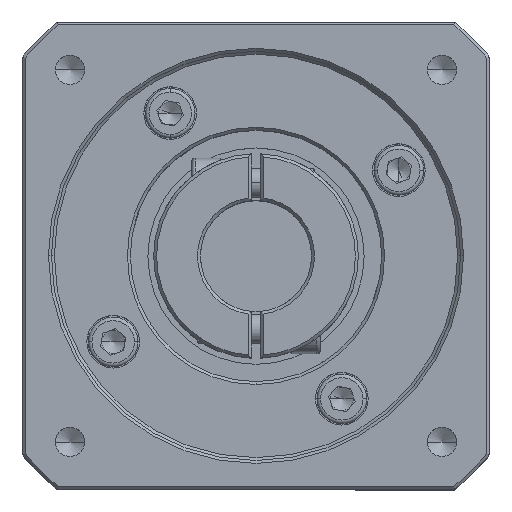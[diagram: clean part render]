
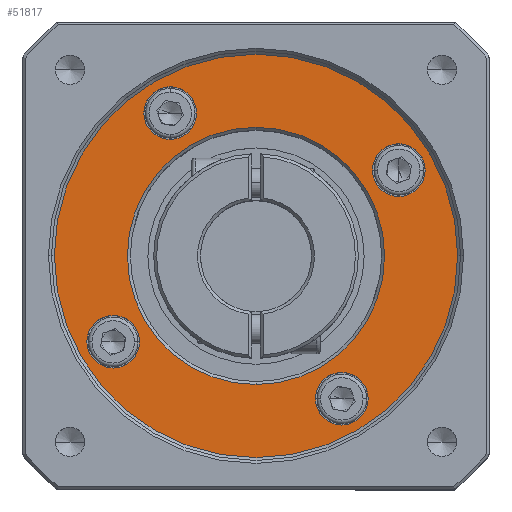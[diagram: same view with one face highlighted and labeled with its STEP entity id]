
A CAD part, top view. The second image highlights one B-rep face of the part: STEP entity #51817.
In plain terms, the highlighted planar face has unit normal (0, 0, 1).
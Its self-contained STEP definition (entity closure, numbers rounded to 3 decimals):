
#1943 = EDGE_LOOP ( 'NONE', ( #96244, #42651 ) ) ;
#2630 = DIRECTION ( 'NONE',  ( 0., 0., -1. ) ) ;
#3821 = AXIS2_PLACEMENT_3D ( 'NONE', #26159, #78778, #33727 ) ;
#4944 = DIRECTION ( 'NONE',  ( 1., 0., 0. ) ) ;
#5835 = DIRECTION ( 'NONE',  ( 0., 0., 1. ) ) ;
#6081 = CARTESIAN_POINT ( 'NONE',  ( -30.382, 27.391, 154.502 ) ) ;
#6118 = CIRCLE ( 'NONE', #39358, 4.5 ) ;
#6265 = CARTESIAN_POINT ( 'NONE',  ( -54.703, 2.961, 154.502 ) ) ;
#8869 = ORIENTED_EDGE ( 'NONE', *, *, #36456, .T. ) ;
#9958 = CARTESIAN_POINT ( 'NONE',  ( -5.525, -21.468, 154.502 ) ) ;
#10754 = EDGE_CURVE ( 'NONE', #18271, #29948, #70914, .T. ) ;
#11370 = VERTEX_POINT ( 'NONE', #59306 ) ;
#12371 = DIRECTION ( 'NONE',  ( 0., 0., 1. ) ) ;
#12946 = CARTESIAN_POINT ( 'NONE',  ( -20.203, -19.039, 154.502 ) ) ;
#14174 = VERTEX_POINT ( 'NONE', #82517 ) ;
#14445 = FACE_BOUND ( 'NONE', #47088, .T. ) ;
#14568 = AXIS2_PLACEMENT_3D ( 'NONE', #50821, #5835, #58385 ) ;
#16709 = CARTESIAN_POINT ( 'NONE',  ( -20.203, 2.961, 154.502 ) ) ;
#16757 = CARTESIAN_POINT ( 'NONE',  ( -40.133, -11.717, 154.502 ) ) ;
#17501 = DIRECTION ( 'NONE',  ( 1., 0., 0. ) ) ;
#18085 = EDGE_CURVE ( 'NONE', #30574, #94137, #35108, .T. ) ;
#18271 = VERTEX_POINT ( 'NONE', #6265 ) ;
#18584 = CARTESIAN_POINT ( 'NONE',  ( -20.203, 2.961, 154.502 ) ) ;
#19197 = DIRECTION ( 'NONE',  ( 0., 0., -1. ) ) ;
#20348 = ORIENTED_EDGE ( 'NONE', *, *, #24004, .T. ) ;
#21926 = CARTESIAN_POINT ( 'NONE',  ( -20.203, 24.961, 154.502 ) ) ;
#22164 = CARTESIAN_POINT ( 'NONE',  ( -49.133, -11.717, 154.502 ) ) ;
#22731 = ORIENTED_EDGE ( 'NONE', *, *, #67942, .T. ) ;
#23276 = EDGE_CURVE ( 'NONE', #81855, #72460, #36946, .T. ) ;
#23550 = EDGE_CURVE ( 'NONE', #94137, #30574, #65074, .T. ) ;
#24004 = EDGE_CURVE ( 'NONE', #84120, #52373, #34245, .T. ) ;
#24240 = DIRECTION ( 'NONE',  ( 0., -1., 0. ) ) ;
#25148 = EDGE_CURVE ( 'NONE', #50929, #47410, #67214, .T. ) ;
#25192 = AXIS2_PLACEMENT_3D ( 'NONE', #38974, #91455, #46536 ) ;
#25636 = DIRECTION ( 'NONE',  ( 0., 0., -1. ) ) ;
#26123 = DIRECTION ( 'NONE',  ( 1., 0., 0. ) ) ;
#26159 = CARTESIAN_POINT ( 'NONE',  ( -20.203, 2.961, 154.502 ) ) ;
#26582 = EDGE_LOOP ( 'NONE', ( #20348, #39847 ) ) ;
#26818 = CARTESIAN_POINT ( 'NONE',  ( 4.226, 17.64, 154.502 ) ) ;
#27166 = PLANE ( 'NONE',  #53374 ) ;
#27653 = AXIS2_PLACEMENT_3D ( 'NONE', #94908, #49957, #4944 ) ;
#29081 = AXIS2_PLACEMENT_3D ( 'NONE', #70691, #25636, #78225 ) ;
#29639 = EDGE_LOOP ( 'NONE', ( #72252, #83164 ) ) ;
#29948 = VERTEX_POINT ( 'NONE', #50275 ) ;
#30574 = VERTEX_POINT ( 'NONE', #12946 ) ;
#33727 = DIRECTION ( 'NONE',  ( 0., -1., 0. ) ) ;
#34245 = CIRCLE ( 'NONE', #25192, 4.5 ) ;
#34353 = DIRECTION ( 'NONE',  ( 1., 0., 0. ) ) ;
#34422 = FACE_OUTER_BOUND ( 'NONE', #40875, .T. ) ;
#34963 = EDGE_LOOP ( 'NONE', ( #68465, #68670 ) ) ;
#35073 = CIRCLE ( 'NONE', #29081, 4.5 ) ;
#35108 = CIRCLE ( 'NONE', #54939, 22. ) ;
#36456 = EDGE_CURVE ( 'NONE', #29948, #18271, #83016, .T. ) ;
#36946 = CIRCLE ( 'NONE', #27653, 4.5 ) ;
#37625 = DIRECTION ( 'NONE',  ( 0., 0., -1. ) ) ;
#38974 = CARTESIAN_POINT ( 'NONE',  ( -34.882, 27.391, 154.502 ) ) ;
#39358 = AXIS2_PLACEMENT_3D ( 'NONE', #82601, #37625, #90126 ) ;
#39847 = ORIENTED_EDGE ( 'NONE', *, *, #49754, .T. ) ;
#40875 = EDGE_LOOP ( 'NONE', ( #8869, #60380 ) ) ;
#42416 = AXIS2_PLACEMENT_3D ( 'NONE', #9958, #62601, #17501 ) ;
#42651 = ORIENTED_EDGE ( 'NONE', *, *, #73733, .T. ) ;
#46536 = DIRECTION ( 'NONE',  ( 1., 0., 0. ) ) ;
#47088 = EDGE_LOOP ( 'NONE', ( #22731, #49913 ) ) ;
#47410 = VERTEX_POINT ( 'NONE', #70567 ) ;
#47643 = CARTESIAN_POINT ( 'NONE',  ( 4.226, 17.64, 154.502 ) ) ;
#49754 = EDGE_CURVE ( 'NONE', #52373, #84120, #35073, .T. ) ;
#49913 = ORIENTED_EDGE ( 'NONE', *, *, #25148, .T. ) ;
#49957 = DIRECTION ( 'NONE',  ( 0., 0., -1. ) ) ;
#50275 = CARTESIAN_POINT ( 'NONE',  ( 14.297, 2.961, 154.502 ) ) ;
#50821 = CARTESIAN_POINT ( 'NONE',  ( -20.203, 2.961, 154.502 ) ) ;
#50929 = VERTEX_POINT ( 'NONE', #75711 ) ;
#51817 = ADVANCED_FACE ( 'NONE', ( #94381, #34422, #14445, #92008, #72087, #52103 ), #27166, .T. ) ;
#52103 = FACE_BOUND ( 'NONE', #26582, .T. ) ;
#52373 = VERTEX_POINT ( 'NONE', #90128 ) ;
#53374 = AXIS2_PLACEMENT_3D ( 'NONE', #57483, #12371, #65044 ) ;
#54939 = AXIS2_PLACEMENT_3D ( 'NONE', #16709, #69316, #24240 ) ;
#55213 = DIRECTION ( 'NONE',  ( 1., 0., 0. ) ) ;
#57483 = CARTESIAN_POINT ( 'NONE',  ( -20.203, 2.961, 154.502 ) ) ;
#58385 = DIRECTION ( 'NONE',  ( 1., 0., 0. ) ) ;
#59306 = CARTESIAN_POINT ( 'NONE',  ( -0.274, 17.64, 154.502 ) ) ;
#60052 = AXIS2_PLACEMENT_3D ( 'NONE', #64286, #19197, #71788 ) ;
#60380 = ORIENTED_EDGE ( 'NONE', *, *, #10754, .T. ) ;
#62601 = DIRECTION ( 'NONE',  ( 0., 0., -1. ) ) ;
#62701 = CIRCLE ( 'NONE', #88345, 4.5 ) ;
#62838 = AXIS2_PLACEMENT_3D ( 'NONE', #47643, #2630, #55213 ) ;
#64286 = CARTESIAN_POINT ( 'NONE',  ( -44.633, -11.717, 154.502 ) ) ;
#65044 = DIRECTION ( 'NONE',  ( 1., 0., 0. ) ) ;
#65074 = CIRCLE ( 'NONE', #3821, 22. ) ;
#66385 = AXIS2_PLACEMENT_3D ( 'NONE', #18584, #71153, #26123 ) ;
#67214 = CIRCLE ( 'NONE', #42416, 4.5 ) ;
#67257 = CIRCLE ( 'NONE', #62838, 4.5 ) ;
#67942 = EDGE_CURVE ( 'NONE', #47410, #50929, #6118, .T. ) ;
#68465 = ORIENTED_EDGE ( 'NONE', *, *, #23276, .T. ) ;
#68670 = ORIENTED_EDGE ( 'NONE', *, *, #93447, .T. ) ;
#69316 = DIRECTION ( 'NONE',  ( 0., 0., -1. ) ) ;
#69816 = EDGE_CURVE ( 'NONE', #14174, #11370, #67257, .T. ) ;
#70567 = CARTESIAN_POINT ( 'NONE',  ( -1.025, -21.468, 154.502 ) ) ;
#70691 = CARTESIAN_POINT ( 'NONE',  ( -34.882, 27.391, 154.502 ) ) ;
#70914 = CIRCLE ( 'NONE', #66385, 34.5 ) ;
#71153 = DIRECTION ( 'NONE',  ( 0., 0., 1. ) ) ;
#71788 = DIRECTION ( 'NONE',  ( 1., 0., 0. ) ) ;
#72087 = FACE_BOUND ( 'NONE', #34963, .T. ) ;
#72252 = ORIENTED_EDGE ( 'NONE', *, *, #18085, .T. ) ;
#72460 = VERTEX_POINT ( 'NONE', #22164 ) ;
#72717 = CIRCLE ( 'NONE', #60052, 4.5 ) ;
#73733 = EDGE_CURVE ( 'NONE', #11370, #14174, #62701, .T. ) ;
#75711 = CARTESIAN_POINT ( 'NONE',  ( -10.025, -21.468, 154.502 ) ) ;
#78225 = DIRECTION ( 'NONE',  ( 1., 0., 0. ) ) ;
#78778 = DIRECTION ( 'NONE',  ( 0., 0., -1. ) ) ;
#79402 = DIRECTION ( 'NONE',  ( 0., 0., -1. ) ) ;
#81855 = VERTEX_POINT ( 'NONE', #16757 ) ;
#82517 = CARTESIAN_POINT ( 'NONE',  ( 8.726, 17.64, 154.502 ) ) ;
#82601 = CARTESIAN_POINT ( 'NONE',  ( -5.525, -21.468, 154.502 ) ) ;
#83016 = CIRCLE ( 'NONE', #14568, 34.5 ) ;
#83164 = ORIENTED_EDGE ( 'NONE', *, *, #23550, .T. ) ;
#84120 = VERTEX_POINT ( 'NONE', #6081 ) ;
#88345 = AXIS2_PLACEMENT_3D ( 'NONE', #26818, #79402, #34353 ) ;
#90126 = DIRECTION ( 'NONE',  ( 1., 0., 0. ) ) ;
#90128 = CARTESIAN_POINT ( 'NONE',  ( -39.382, 27.391, 154.502 ) ) ;
#91455 = DIRECTION ( 'NONE',  ( 0., 0., -1. ) ) ;
#92008 = FACE_BOUND ( 'NONE', #1943, .T. ) ;
#93447 = EDGE_CURVE ( 'NONE', #72460, #81855, #72717, .T. ) ;
#94137 = VERTEX_POINT ( 'NONE', #21926 ) ;
#94381 = FACE_BOUND ( 'NONE', #29639, .T. ) ;
#94908 = CARTESIAN_POINT ( 'NONE',  ( -44.633, -11.717, 154.502 ) ) ;
#96244 = ORIENTED_EDGE ( 'NONE', *, *, #69816, .T. ) ;
